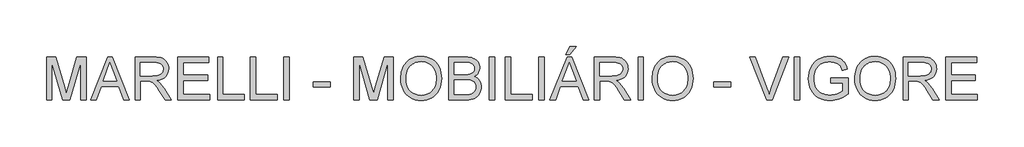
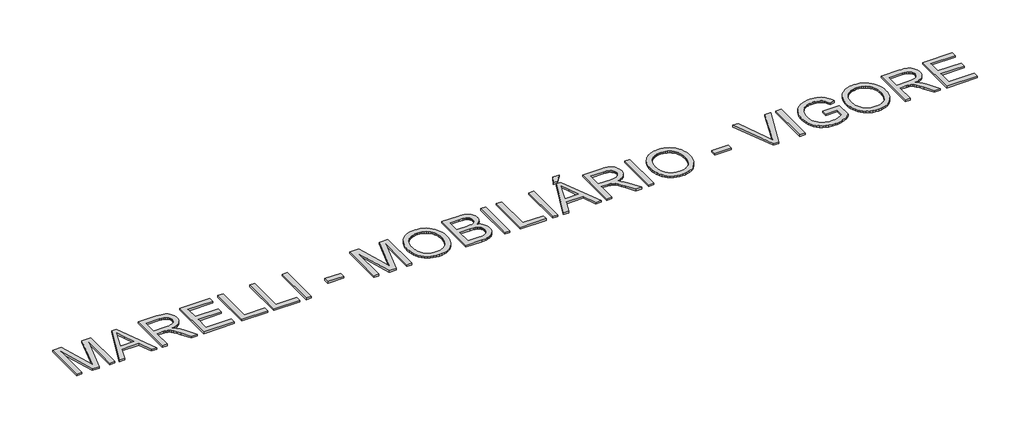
# One storey, part 4 of 4: 1 proxy.
"""IFC4 building model written with IfcOpenShell, lengths in millimetres."""

from ifc_helpers import new_model, si_unit, origin, origin_with_axes, place, context, project, spatial, polyline, outline, extrude, element, save

model = new_model("IFC4")

# Units and contexts
model_context = context("Model", 3, world=origin())
ifc_project = project(units=[si_unit("LENGTHUNIT", "METRE", prefix="MILLI")], contexts=[model_context])

# Site, building, storey
site = spatial("IfcSite", under=ifc_project)
building = spatial("IfcBuilding", under=site)
storey = spatial("IfcBuildingStorey", under=building, Name="Marelli - Linha VIGORE - Planta Baixa", Elevation=0.0)

# Proxy
placement = place(None, origin())
element("IfcBuildingElementProxy", 1, Name="1200mm Arial", ObjectType="1200mm Arial", at=placement, inside=storey, context=model_context, shape_type="SweptSolid", body=[
    extrude(outline(polyline([(-9651.1285855, 28269.4336799), (-9651.1285855, 29474.9094017), (-9391.8453553, 29474.9094017), (-9145.2172657, 28625.2491457), (-9095.47962, 28447.7828712), (-9041.6216959, 28639.9644255), (-8799.1138846, 29474.9094017), (-8539.8306544, 29474.9094017), (-8539.8306544, 28269.4336799), (-8690.5151197, 28269.4336799), (-8690.5151197, 29324.2249365), (-8993.3555781, 28269.4336799), (-9197.6036618, 28269.4336799), (-9500.4441202, 29324.2249365), (-9500.4441202, 28269.4336799), (-9651.1285855, 28269.4336799)])), origin_with_axes(), (0.0, 0.0, 1.0), 50.0),
    extrude(outline(polyline([(-8416.5166097, 28269.4336799), (-7935.32696, 29474.9094017), (-7807.00972, 29474.9094017), (-7325.8200704, 28269.4336799), (-7485.0393979, 28269.4336799), (-7623.0687225, 28646.144843), (-8119.5622631, 28646.144843), (-8257.2972821, 28269.4336799), (-8416.5166097, 28269.4336799)]), holes=[polyline([(-8064.2328111, 28796.8293082), (-7678.1038689, 28796.8293082), (-7786.7026339, 29093.1950435), (-7871.16834, 29324.2249365), (-7946.216267, 29119.093936), (-8064.2328111, 28796.8293082)])]), origin_with_axes(), (0.0, 0.0, 1.0), 50.0),
    extrude(outline(polyline([(-7164.8349093, 28269.4336799), (-7164.8349093, 29474.9094017), (-6645.3855321, 29474.9094017), (-6570.8250487, 29472.8768537), (-6505.7743149, 29466.7792096), (-6450.2333307, 29456.6164695), (-6404.202096, 29442.3886334), (-6365.0042695, 29423.0012522), (-6329.9635094, 29397.3598771), (-6299.0798159, 29365.4645082), (-6272.353189, 29327.3151453), (-6250.786107, 29284.9627306), (-6235.3810485, 29240.4582062), (-6226.1380133, 29193.8015722), (-6223.0570016, 29144.9928285), (-6228.1613643, 29083.0782887), (-6243.4744523, 29026.2405204), (-6268.9962658, 28974.4795237), (-6304.7268045, 28927.7952985), (-6326.5353091, 28906.7294558), (-6351.1259212, 28887.6777669), (-6408.6534682, 28855.616851), (-6477.3094455, 28831.6125509), (-6557.0938532, 28815.6648664), (-6507.4297839, 28783.2176744), (-6471.4509248, 28751.2119408), (-6409.720326, 28678.0034238), (-6349.3141024, 28596.1128916), (-6148.3033802, 28269.4336799), (-6323.4152099, 28269.4336799), (-6480.2800926, 28519.2991311), (-6543.040761, 28614.6541442), (-6593.5877472, 28684.6988761), (-6635.7102356, 28732.9282057), (-6673.1974109, 28762.8370119), (-6708.6980234, 28780.384983), (-6744.8608236, 28791.5318075), (-6780.1039187, 28795.504933), (-6832.2695856, 28796.8293082), (-7014.150444, 28796.8293082), (-7014.150444, 28269.4336799), (-7164.8349093, 28269.4336799)]), holes=[polyline([(-7014.150444, 28947.5137734), (-6676.8762309, 28947.5137734), (-6580.0129015, 28952.8480624), (-6539.720626, 28959.5159235), (-6504.8546099, 28968.8509292), (-6474.633104, 28981.1197937), (-6448.2743591, 28996.5892316), (-6425.7783751, 29015.2592429), (-6407.145152, 29037.1298275), (-6392.5310397, 29061.1249306), (-6382.0923881, 29086.1684974), (-6375.8291972, 29112.2605279), (-6373.7414668, 29139.4010221), (-6377.7237894, 29177.9366611), (-6389.6707572, 29212.9038448), (-6409.5823702, 29244.3025731), (-6437.4586284, 29272.132846), (-6473.9433253, 29294.9231356), (-6519.6802543, 29311.2019139), (-6574.6694156, 29320.9691808), (-6638.910809, 29324.2249365), (-7014.150444, 29324.2249365), (-7014.150444, 28947.5137734)])]), origin_with_axes(), (0.0, 0.0, 1.0), 50.0),
    extrude(outline(polyline([(-5959.3591875, 28269.4336799), (-5959.3591875, 29474.9094017), (-5092.9235124, 29474.9094017), (-5092.9235124, 29324.2249365), (-5808.6747222, 29324.2249365), (-5808.6747222, 28966.3493316), (-5130.5946287, 28966.3493316), (-5130.5946287, 28815.6648664), (-5808.6747222, 28815.6648664), (-5808.6747222, 28420.1181452), (-5074.0879543, 28420.1181452), (-5074.0879543, 28269.4336799), (-5959.3591875, 28269.4336799)])), origin_with_axes(), (0.0, 0.0, 1.0), 50.0),
    extrude(outline(polyline([(-4848.0612564, 28269.4336799), (-4848.0612564, 29474.9094017), (-4697.3767912, 29474.9094017), (-4697.3767912, 28420.1181452), (-4094.6389303, 28420.1181452), (-4094.6389303, 28269.4336799), (-4848.0612564, 28269.4336799)])), origin_with_axes(), (0.0, 0.0, 1.0), 50.0),
    extrude(outline(polyline([(-3925.1189069, 28269.4336799), (-3925.1189069, 29474.9094017), (-3774.4344417, 29474.9094017), (-3774.4344417, 28420.1181452), (-3171.6965808, 28420.1181452), (-3171.6965808, 28269.4336799), (-3925.1189069, 28269.4336799)])), origin_with_axes(), (0.0, 0.0, 1.0), 50.0),
    extrude(outline(polyline([(-2983.3409993, 28269.4336799), (-2983.3409993, 29474.9094017), (-2832.6565341, 29474.9094017), (-2832.6565341, 28269.4336799), (-2983.3409993, 28269.4336799)])), origin_with_axes(), (0.0, 0.0, 1.0), 50.0),
    extrude(outline(polyline([(-2154.5764406, 28627.3092848), (-2154.5764406, 28777.9937501), (-1683.6874867, 28777.9937501), (-1683.6874867, 28627.3092848), (-2154.5764406, 28627.3092848)])), origin_with_axes(), (0.0, 0.0, 1.0), 50.0),
    extrude(outline(polyline([(-1024.4429514, 28269.4336799), (-1024.4429514, 29474.9094017), (-765.1597212, 29474.9094017), (-518.5316316, 28625.2491457), (-468.7939859, 28447.7828712), (-414.9360618, 28639.9644255), (-172.4282505, 29474.9094017), (86.8549797, 29474.9094017), (86.8549797, 28269.4336799), (-63.8294856, 28269.4336799), (-63.8294856, 29324.2249365), (-366.669944, 28269.4336799), (-570.9180277, 28269.4336799), (-873.7584861, 29324.2249365), (-873.7584861, 28269.4336799), (-1024.4429514, 28269.4336799)])), origin_with_axes(), (0.0, 0.0, 1.0), 50.0),
    extrude(outline(polyline([(294.0461193, 28856.2790386), (296.556914, 28929.0047106), (304.0892978, 28997.6744835), (316.6432709, 29062.2883574), (334.2188332, 29122.8463323), (356.8159848, 29179.3484083), (384.4347256, 29231.7945852), (417.0750556, 29280.1848632), (454.7369748, 29324.5192421), (496.3674211, 29364.1815197), (540.9133322, 29398.5554936), (588.3747081, 29427.6411639), (638.7515488, 29451.4385304), (692.0438544, 29469.9475933), (748.2516247, 29483.1683525), (807.3748598, 29491.100808), (869.4135598, 29493.7449599), (950.5131456, 29488.7785529), (1027.5292413, 29473.8793321), (1100.4618469, 29449.0472975), (1169.3109623, 29414.2824489), (1232.145207, 29370.6332502), (1287.0332007, 29319.148165), (1333.9749433, 29259.8271932), (1372.9704348, 29192.670335), (1403.615005, 29119.2043006), (1425.5039837, 29040.9558002), (1438.6373709, 28957.9248339), (1443.0151667, 28870.1114017), (1438.4074447, 28781.1391411), (1424.5842787, 28696.9861347), (1401.5456688, 28617.6523825), (1369.2916148, 28543.1378843), (1328.5854721, 28475.410809), (1280.1905956, 28416.4393252), (1224.1069854, 28366.2234329), (1160.3346416, 28324.763132), (1091.3843586, 28292.31594), (1019.7669312, 28269.1393743), (945.4823594, 28255.2334349), (868.530643, 28250.5981218), (786.0147115, 28255.7208786), (707.9869403, 28271.0891489), (634.4473295, 28296.7029328), (565.395879, 28332.5622303), (502.6352106, 28377.2782868), (447.9679461, 28429.4623478), (401.3940855, 28489.1144134), (362.9136288, 28556.2344834), (332.7840934, 28628.1278223), (311.2629967, 28702.0996945), (298.3503387, 28778.1500999), (294.0461193, 28856.2790386)]), holes=[polyline([(444.7305846, 28854.8075107), (446.6136805, 28803.4557827), (452.2629684, 28754.9091549), (461.6784482, 28709.1676273), (474.86012, 28666.2311999), (491.8079836, 28626.0998728), (512.5220392, 28588.7736458), (537.0022867, 28554.2525191), (565.2487262, 28522.5364926), (596.337054, 28494.1176085), (629.3429668, 28469.4879089), (664.2664645, 28448.6473939), (701.107547, 28431.5960634), (739.8662145, 28418.3339175), (780.5424668, 28408.8609561), (823.1363041, 28403.1771793), (867.6477262, 28401.282587), (912.9730873, 28403.1955734), (956.2429077, 28408.9345325), (997.4571875, 28418.4994644), (1036.6159266, 28431.890369), (1073.7191251, 28449.1072464), (1108.7667829, 28470.1500965), (1141.7589001, 28495.0189194), (1172.6954766, 28523.713715), (1200.7349824, 28555.9263822), (1225.0358875, 28591.3488198), (1245.5981918, 28629.9810278), (1262.4218952, 28671.8230063), (1275.506998, 28716.8747551), (1284.8534999, 28765.1362743), (1290.4614011, 28816.607564), (1292.3307015, 28871.288624), (1289.1301281, 28940.248104), (1279.528408, 29004.6826355), (1263.5255412, 29064.5922184), (1241.1215277, 29119.9768528), (1212.5646879, 29170.1099717), (1178.103342, 29214.2650081), (1137.73749, 29252.4419622), (1091.4671321, 29284.6408338), (1040.7270079, 29310.1994354), (986.9518573, 29328.4555794), (930.1416802, 29339.4092659), (870.2964766, 29343.0604947), (827.498005, 29341.3015589), (786.2170466, 29336.0247515), (746.4536014, 29327.2300726), (708.2076695, 29314.917522), (671.4792508, 29299.0870999), (636.2683454, 29279.7388062), (602.5749531, 29256.872641), (570.3990741, 29230.4886041), (540.9455219, 29199.993486), (515.4191099, 29164.7940768), (493.8198383, 29124.8903767), (476.147707, 29080.2823855), (462.4027159, 29030.9701033), (452.5848652, 28976.9535301), (446.6941547, 28918.2326659), (444.7305846, 28854.8075107)])]), origin_with_axes(), (0.0, 0.0, 1.0), 50.0),
    extrude(outline(polyline([(1650.2063064, 28269.4336799), (1650.2063064, 29474.9094017), (2110.2059531, 29474.9094017), (2176.93055, 29472.6929127), (2236.7205713, 29466.0434456), (2289.5760169, 29454.9610005), (2335.496887, 29439.4455774), (2375.6512068, 29419.3316293), (2411.2070016, 29394.4536094), (2442.1642715, 29364.8115176), (2468.5230164, 29330.405354), (2489.5750636, 29293.1756961), (2504.6122402, 29255.0631214), (2513.6345461, 29216.0676299), (2516.6419814, 29176.1892216), (2514.1127927, 29139.3550369), (2506.5252265, 29103.606104), (2493.879283, 29068.942423), (2476.1749619, 29035.3639939), (2453.3570812, 29003.9192804), (2425.3704584, 28975.6567461), (2392.2150936, 28950.5763911), (2353.8909867, 28928.6782153), (2399.3703984, 28909.2908341), (2439.2763978, 28884.0909175), (2473.608985, 28853.0784653), (2502.36816, 28816.2534776), (2525.0940702, 28774.7379944), (2541.3268633, 28729.6540559), (2551.0665391, 28681.001662), (2554.3130977, 28628.7808128), (2552.0966087, 28585.9869397), (2545.4471416, 28544.7197769), (2534.3646965, 28504.9793244), (2518.8492734, 28466.7655821), (2500.0597005, 28431.4673047), (2479.1548061, 28400.4732466), (2456.1345902, 28373.7834079), (2430.9990529, 28351.3977885), (2403.1595829, 28332.3966834), (2372.0275691, 28315.8603877), (2337.6030114, 28301.7889014), (2299.8859098, 28290.1822245), (2258.2876532, 28281.1047362), (2212.2196304, 28274.6208161), (2106.674286, 28269.4336799), (1650.2063064, 28269.4336799)]), holes=[polyline([(1800.8907716, 28985.1848897), (2076.066504, 28985.1848897), (2172.3044339, 28988.4222513), (2236.7573595, 28998.134336), (2266.8593037, 29007.9108), (2293.0065165, 29020.4647731), (2315.1989979, 29035.7962552), (2333.4367478, 29053.9052464), (2347.664584, 29074.662988), (2357.8273241, 29097.9407213), (2363.9249682, 29123.7384462), (2365.9575162, 29152.0561628), (2364.0629239, 29179.1690658), (2358.3791471, 29204.5897117), (2348.9061857, 29228.3181004), (2335.6440398, 29250.3542319), (2318.8502267, 29269.8795688), (2298.7822639, 29286.0755736), (2275.4401513, 29298.9422464), (2248.8238889, 29308.4795871), (2215.5305684, 29315.3681775), (2172.1572811, 29320.2885992), (2055.1708067, 29324.2249365), (1800.8907716, 29324.2249365), (1800.8907716, 28985.1848897)]), polyline([(1800.8907716, 28420.1181452), (2109.9116475, 28420.1181452), (2177.6019346, 28421.5896731), (2221.7477741, 28426.0042571), (2273.6559236, 28439.0640679), (2316.3670232, 28458.819331), (2351.0950836, 28487.1094565), (2379.0541152, 28525.7738542), (2389.8054665, 28548.5641438), (2397.4850032, 28573.0834788), (2402.0927252, 28599.3318591), (2403.6286325, 28627.3092848), (2401.8260107, 28659.9036296), (2396.4181454, 28690.2906824), (2387.4050365, 28718.4704432), (2374.7866841, 28744.4429121), (2358.1308267, 28767.463128), (2337.0052032, 28786.7861297), (2311.4098133, 28802.4119175), (2281.3446573, 28814.3404912), (2245.4853598, 28823.160462), (2202.5075457, 28829.4604412), (2095.1963677, 28834.5004245), (1800.8907716, 28834.5004245), (1800.8907716, 28420.1181452)])]), origin_with_axes(), (0.0, 0.0, 1.0), 50.0),
    extrude(outline(polyline([(2780.3397955, 28269.4336799), (2780.3397955, 29474.9094017), (2931.0242608, 29474.9094017), (2931.0242608, 28269.4336799), (2780.3397955, 28269.4336799)])), origin_with_axes(), (0.0, 0.0, 1.0), 50.0),
    extrude(outline(polyline([(3232.3931912, 28269.4336799), (3232.3931912, 29474.9094017), (3383.0776564, 29474.9094017), (3383.0776564, 28420.1181452), (3985.8155173, 28420.1181452), (3985.8155173, 28269.4336799), (3232.3931912, 28269.4336799)])), origin_with_axes(), (0.0, 0.0, 1.0), 50.0),
    extrude(outline(polyline([(4174.1710989, 28269.4336799), (4174.1710989, 29474.9094017), (4324.8555641, 29474.9094017), (4324.8555641, 28269.4336799), (4174.1710989, 28269.4336799)])), origin_with_axes(), (0.0, 0.0, 1.0), 50.0),
    extrude(outline(polyline([(4485.8407252, 28269.4336799), (4967.0303749, 29474.9094017), (5095.3476148, 29474.9094017), (5576.5372645, 28269.4336799), (5417.317937, 28269.4336799), (5279.2886124, 28646.144843), (4782.7950717, 28646.144843), (4645.0600527, 28269.4336799), (4485.8407252, 28269.4336799)]), holes=[polyline([(4838.1245238, 28796.8293082), (5224.2534659, 28796.8293082), (5115.6547009, 29093.1950435), (5031.1889948, 29324.2249365), (4956.1410678, 29119.093936), (4838.1245238, 28796.8293082)])]), origin_with_axes(), (0.0, 0.0, 1.0), 50.0),
    extrude(outline(polyline([(4927.593425, 29550.2516343), (5040.6067739, 29776.2783322), (5228.9623554, 29776.2783322), (5040.6067739, 29550.2516343), (4927.593425, 29550.2516343)])), origin_with_axes(), (0.0, 0.0, 1.0), 50.0),
    extrude(outline(polyline([(5737.5224256, 28269.4336799), (5737.5224256, 29474.9094017), (6256.9718028, 29474.9094017), (6331.5322861, 29472.8768537), (6396.5830199, 29466.7792096), (6452.1240042, 29456.6164695), (6498.1552388, 29442.3886334), (6537.3530654, 29423.0012522), (6572.3938254, 29397.3598771), (6603.2775189, 29365.4645082), (6630.0041459, 29327.3151453), (6651.5712278, 29284.9627306), (6666.9762864, 29240.4582062), (6676.2193215, 29193.8015722), (6679.3003332, 29144.9928285), (6674.1959705, 29083.0782887), (6658.8828825, 29026.2405204), (6633.3610691, 28974.4795237), (6597.6305303, 28927.7952985), (6575.8220258, 28906.7294558), (6551.2314137, 28887.6777669), (6493.7038667, 28855.616851), (6425.0478893, 28831.6125509), (6345.2634816, 28815.6648664), (6394.927551, 28783.2176744), (6430.9064101, 28751.2119408), (6492.6370089, 28678.0034238), (6553.0432325, 28596.1128916), (6754.0539546, 28269.4336799), (6578.9421249, 28269.4336799), (6422.0772422, 28519.2991311), (6359.3165738, 28614.6541442), (6308.7695877, 28684.6988761), (6266.6470992, 28732.9282057), (6229.1599239, 28762.8370119), (6193.6593114, 28780.384983), (6157.4965113, 28791.5318075), (6122.2534161, 28795.504933), (6070.0877492, 28796.8293082), (5888.2068908, 28796.8293082), (5888.2068908, 28269.4336799), (5737.5224256, 28269.4336799)]), holes=[polyline([(5888.2068908, 28947.5137734), (6225.481104, 28947.5137734), (6322.3444333, 28952.8480624), (6362.6367088, 28959.5159235), (6397.5027249, 28968.8509292), (6427.7242308, 28981.1197937), (6454.0829758, 28996.5892316), (6476.5789598, 29015.2592429), (6495.2121828, 29037.1298275), (6509.8262951, 29061.1249306), (6520.2649467, 29086.1684974), (6526.5281377, 29112.2605279), (6528.615868, 29139.4010221), (6524.6335454, 29177.9366611), (6512.6865776, 29212.9038448), (6492.7749646, 29244.3025731), (6464.8987064, 29272.132846), (6428.4140096, 29294.9231356), (6382.6770805, 29311.2019139), (6327.6879193, 29320.9691808), (6263.4465259, 29324.2249365), (5888.2068908, 29324.2249365), (5888.2068908, 28947.5137734)])]), origin_with_axes(), (0.0, 0.0, 1.0), 50.0),
    extrude(outline(polyline([(6961.8337055, 28269.4336799), (6961.8337055, 29474.9094017), (7112.5181707, 29474.9094017), (7112.5181707, 28269.4336799), (6961.8337055, 28269.4336799)])), origin_with_axes(), (0.0, 0.0, 1.0), 50.0),
    extrude(outline(polyline([(7357.3804267, 28856.2790386), (7359.8912214, 28929.0047106), (7367.4236052, 28997.6744835), (7379.9775783, 29062.2883574), (7397.5531406, 29122.8463323), (7420.1502922, 29179.3484083), (7447.769033, 29231.7945852), (7480.409363, 29280.1848632), (7518.0712822, 29324.5192421), (7559.7017285, 29364.1815197), (7604.2476396, 29398.5554936), (7651.7090155, 29427.6411639), (7702.0858562, 29451.4385304), (7755.3781617, 29469.9475933), (7811.5859321, 29483.1683525), (7870.7091672, 29491.100808), (7932.7478672, 29493.7449599), (8013.847453, 29488.7785529), (8090.8635487, 29473.8793321), (8163.7961543, 29449.0472975), (8232.6452697, 29414.2824489), (8295.4795144, 29370.6332502), (8350.3675081, 29319.148165), (8397.3092507, 29259.8271932), (8436.3047422, 29192.670335), (8466.9493124, 29119.2043006), (8488.8382911, 29040.9558002), (8501.9716783, 28957.9248339), (8506.3494741, 28870.1114017), (8501.7417521, 28781.1391411), (8487.9185861, 28696.9861347), (8464.8799762, 28617.6523825), (8432.6259222, 28543.1378843), (8391.9197795, 28475.410809), (8343.524903, 28416.4393252), (8287.4412928, 28366.2234329), (8223.668949, 28324.763132), (8154.718666, 28292.31594), (8083.1012386, 28269.1393743), (8008.8166667, 28255.2334349), (7931.8649504, 28250.5981218), (7849.3490189, 28255.7208786), (7771.3212477, 28271.0891489), (7697.7816369, 28296.7029328), (7628.7301864, 28332.5622303), (7565.969518, 28377.2782868), (7511.3022535, 28429.4623478), (7464.7283929, 28489.1144134), (7426.2479362, 28556.2344834), (7396.1184008, 28628.1278223), (7374.5973041, 28702.0996945), (7361.6846461, 28778.1500999), (7357.3804267, 28856.2790386)]), holes=[polyline([(7508.064892, 28854.8075107), (7509.9479879, 28803.4557827), (7515.5972758, 28754.9091549), (7525.0127556, 28709.1676273), (7538.1944274, 28666.2311999), (7555.142291, 28626.0998728), (7575.8563466, 28588.7736458), (7600.3365941, 28554.2525191), (7628.5830336, 28522.5364926), (7659.6713614, 28494.1176085), (7692.6772742, 28469.4879089), (7727.6007718, 28448.6473939), (7764.4418544, 28431.5960634), (7803.2005219, 28418.3339175), (7843.8767742, 28408.8609561), (7886.4706115, 28403.1771793), (7930.9820336, 28401.282587), (7976.3073947, 28403.1955734), (8019.5772151, 28408.9345325), (8060.7914949, 28418.4994644), (8099.950234, 28431.890369), (8137.0534325, 28449.1072464), (8172.1010903, 28470.1500965), (8205.0932075, 28495.0189194), (8236.029784, 28523.713715), (8264.0692898, 28555.9263822), (8288.3701949, 28591.3488198), (8308.9324991, 28629.9810278), (8325.7562026, 28671.8230063), (8338.8413054, 28716.8747551), (8348.1878073, 28765.1362743), (8353.7957085, 28816.607564), (8355.6650088, 28871.288624), (8352.4644355, 28940.248104), (8342.8627154, 29004.6826355), (8326.8598486, 29064.5922184), (8304.4558351, 29119.9768528), (8275.8989952, 29170.1099717), (8241.4376493, 29214.2650081), (8201.0717974, 29252.4419622), (8154.8014395, 29284.6408338), (8104.0613153, 29310.1994354), (8050.2861647, 29328.4555794), (7993.4759875, 29339.4092659), (7933.630784, 29343.0604947), (7890.8323124, 29341.3015589), (7849.551354, 29336.0247515), (7809.7879088, 29327.2300726), (7771.5419769, 29314.917522), (7734.8135582, 29299.0870999), (7699.6026528, 29279.7388062), (7665.9092605, 29256.872641), (7633.7333815, 29230.4886041), (7604.2798293, 29199.993486), (7578.7534173, 29164.7940768), (7557.1541457, 29124.8903767), (7539.4820144, 29080.2823855), (7525.7370233, 29030.9701033), (7515.9191726, 28976.9535301), (7510.0284621, 28918.2326659), (7508.064892, 28854.8075107)])]), origin_with_axes(), (0.0, 0.0, 1.0), 50.0),
    extrude(outline(polyline([(9090.2517768, 28627.3092848), (9090.2517768, 28777.9937501), (9561.1407306, 28777.9937501), (9561.1407306, 28627.3092848), (9090.2517768, 28627.3092848)])), origin_with_axes(), (0.0, 0.0, 1.0), 50.0),
    extrude(outline(polyline([(10576.4950373, 28269.4336799), (10096.7769156, 29474.9094017), (10258.0563823, 29474.9094017), (10579.1437877, 28606.4135875), (10614.8283412, 28505.2460388), (10644.1853244, 28410.7003661), (10674.0573425, 28508.6305532), (10708.3439444, 28606.4135875), (11030.3142666, 29474.9094017), (11191.5937333, 29474.9094017), (10732.1826977, 28269.4336799), (10576.4950373, 28269.4336799)])), origin_with_axes(), (0.0, 0.0, 1.0), 50.0),
    extrude(outline(polyline([(11350.5187552, 28269.4336799), (11350.5187552, 29474.9094017), (11501.2032204, 29474.9094017), (11501.2032204, 28269.4336799), (11350.5187552, 28269.4336799)])), origin_with_axes(), (0.0, 0.0, 1.0), 50.0),
    extrude(outline(polyline([(12367.6388954, 28740.3226338), (12367.6388954, 28891.007099), (12857.3634074, 28891.007099), (12857.3634074, 28440.4252313), (12798.3275443, 28396.113845), (12738.353582, 28357.6517824), (12677.4415206, 28325.0390435), (12615.5913602, 28298.2756284), (12552.8766771, 28277.4167192), (12489.3710477, 28262.5174984), (12425.0744719, 28253.5779659), (12359.9869499, 28250.5981218), (12273.4335135, 28255.3346025), (12190.9451732, 28269.5440445), (12112.5219288, 28293.226448), (12038.1637806, 28326.3818128), (11970.2711584, 28368.5134983), (11911.2444922, 28419.1248638), (11861.0837822, 28478.2159092), (11819.7890282, 28545.7866347), (11787.5349743, 28619.6757334), (11764.4963644, 28697.7218987), (11750.6731984, 28779.9251305), (11746.0654764, 28866.2854289), (11750.6548043, 28952.6549243), (11764.422788, 29036.0629697), (11787.3694274, 29116.509565), (11819.4947226, 29193.9947102), (11860.2284566, 29265.1154969), (11909.0004121, 29326.4690167), (11965.8105892, 29378.0552694), (12030.6589879, 29419.8742552), (12102.1384595, 29452.1926885), (12178.8418555, 29475.2772837), (12260.7691759, 29489.1280408), (12347.9204205, 29493.7449599), (12411.5456116, 29491.0686184), (12472.0438057, 29483.0395938), (12529.4150028, 29469.6578862), (12583.659203, 29450.9234956), (12633.4980163, 29427.4158362), (12677.6530528, 29399.7143219), (12716.1243124, 29367.8189529), (12748.9117953, 29331.7297292), (12777.0639649, 29290.6281133), (12801.6292852, 29243.6955678), (12822.6077559, 29190.9320926), (12839.9993773, 29132.3376878), (12701.0871359, 29093.1950435), (12686.4178413, 29135.3451231), (12670.0746837, 29172.6207663), (12652.057663, 29205.021973), (12632.3667792, 29232.5487433), (12609.6316719, 29256.3874966), (12582.4819806, 29277.7246523), (12550.9177054, 29296.5602105), (12514.9388463, 29312.8941711), (12475.7134286, 29326.0919376), (12434.4094776, 29335.5189138), (12391.0269933, 29341.1750994), (12345.5659757, 29343.0604947), (12291.6804605, 29341.0279466), (12241.5657357, 29334.9303026), (12195.2218014, 29324.7675624), (12152.6486575, 29310.5397263), (12113.9290775, 29293.0101492), (12079.1458348, 29272.9421864), (12048.2989295, 29250.3358378), (12021.3883616, 29225.1911034), (11977.0585812, 29169.7512867), (11943.838837, 29109.0875457), (11923.2374453, 29053.3534235), (11908.5221655, 28995.3384328), (11899.6929976, 28935.0425738), (11896.7499416, 28872.4658464), (11900.2908058, 28797.2247814), (11910.9133984, 28728.3664689), (11928.6177195, 28665.8909091), (11953.4037689, 28609.7981019), (11984.94965, 28560.2995794), (12022.933466, 28517.6068739), (12067.3552169, 28481.7199852), (12118.2149027, 28452.6389135), (12173.1304875, 28430.1705207), (12229.7199355, 28414.1216686), (12287.9832464, 28404.4923574), (12347.9204205, 28401.282587), (12400.4263783, 28403.7014111), (12452.2885425, 28410.9578835), (12503.5069133, 28423.0520041), (12554.0814906, 28439.9837729), (12642.483534, 28479.9725458), (12677.6070675, 28500.9326224), (12706.6789422, 28522.5364926), (12706.6789422, 28740.3226338), (12367.6388954, 28740.3226338)])), origin_with_axes(), (0.0, 0.0, 1.0), 50.0),
    extrude(outline(polyline([(13045.718989, 28856.2790386), (13048.2297836, 28929.0047106), (13055.7621674, 28997.6744835), (13068.3161405, 29062.2883574), (13085.8917028, 29122.8463323), (13108.4888544, 29179.3484083), (13136.1075952, 29231.7945852), (13168.7479252, 29280.1848632), (13206.4098445, 29324.5192421), (13248.0402907, 29364.1815197), (13292.5862018, 29398.5554936), (13340.0475777, 29427.6411639), (13390.4244184, 29451.4385304), (13443.716724, 29469.9475933), (13499.9244943, 29483.1683525), (13559.0477295, 29491.100808), (13621.0864294, 29493.7449599), (13702.1860153, 29488.7785529), (13779.2021109, 29473.8793321), (13852.1347165, 29449.0472975), (13920.9838319, 29414.2824489), (13983.8180767, 29370.6332502), (14038.7060703, 29319.148165), (14085.6478129, 29259.8271932), (14124.6433044, 29192.670335), (14155.2878746, 29119.2043006), (14177.1768533, 29040.9558002), (14190.3102406, 28957.9248339), (14194.6880363, 28870.1114017), (14190.0803143, 28781.1391411), (14176.2571483, 28696.9861347), (14153.2185384, 28617.6523825), (14120.9644845, 28543.1378843), (14080.2583417, 28475.410809), (14031.8634652, 28416.4393252), (13975.7798551, 28366.2234329), (13912.0075112, 28324.763132), (13843.0572283, 28292.31594), (13771.4398008, 28269.1393743), (13697.155229, 28255.2334349), (13620.2035126, 28250.5981218), (13537.6875811, 28255.7208786), (13459.6598099, 28271.0891489), (13386.1201991, 28296.7029328), (13317.0687486, 28332.5622303), (13254.3080802, 28377.2782868), (13199.6408157, 28429.4623478), (13153.0669552, 28489.1144134), (13114.5864985, 28556.2344834), (13084.4569631, 28628.1278223), (13062.9358663, 28702.0996945), (13050.0232083, 28778.1500999), (13045.718989, 28856.2790386)]), holes=[polyline([(13196.4034542, 28854.8075107), (13198.2865501, 28803.4557827), (13203.935838, 28754.9091549), (13213.3513178, 28709.1676273), (13226.5329896, 28666.2311999), (13243.4808533, 28626.0998728), (13264.1949088, 28588.7736458), (13288.6751564, 28554.2525191), (13316.9215958, 28522.5364926), (13348.0099237, 28494.1176085), (13381.0158364, 28469.4879089), (13415.9393341, 28448.6473939), (13452.7804166, 28431.5960634), (13491.5390841, 28418.3339175), (13532.2153364, 28408.8609561), (13574.8091737, 28403.1771793), (13619.3205958, 28401.282587), (13664.6459569, 28403.1955734), (13707.9157773, 28408.9345325), (13749.1300571, 28418.4994644), (13788.2887962, 28431.890369), (13825.3919947, 28449.1072464), (13860.4396525, 28470.1500965), (13893.4317697, 28495.0189194), (13924.3683462, 28523.713715), (13952.4078521, 28555.9263822), (13976.7087571, 28591.3488198), (13997.2710614, 28629.9810278), (14014.0947649, 28671.8230063), (14027.1798676, 28716.8747551), (14036.5263695, 28765.1362743), (14042.1342707, 28816.607564), (14044.0035711, 28871.288624), (14040.8029977, 28940.248104), (14031.2012776, 29004.6826355), (14015.1984108, 29064.5922184), (13992.7943973, 29119.9768528), (13964.2375575, 29170.1099717), (13929.7762116, 29214.2650081), (13889.4103596, 29252.4419622), (13843.1400017, 29284.6408338), (13792.3998775, 29310.1994354), (13738.6247269, 29328.4555794), (13681.8145498, 29339.4092659), (13621.9693462, 29343.0604947), (13579.1708746, 29341.3015589), (13537.8899162, 29336.0247515), (13498.1264711, 29327.2300726), (13459.8805391, 29314.917522), (13423.1521204, 29299.0870999), (13387.941215, 29279.7388062), (13354.2478227, 29256.872641), (13322.0719437, 29230.4886041), (13292.6183915, 29199.993486), (13267.0919796, 29164.7940768), (13245.4927079, 29124.8903767), (13227.8205766, 29080.2823855), (13214.0755855, 29030.9701033), (13204.2577348, 28976.9535301), (13198.3670243, 28918.2326659), (13196.4034542, 28854.8075107)])]), origin_with_axes(), (0.0, 0.0, 1.0), 50.0),
    extrude(outline(polyline([(14401.879176, 28269.4336799), (14401.879176, 29474.9094017), (14921.3285532, 29474.9094017), (14995.8890365, 29472.8768537), (15060.9397703, 29466.7792096), (15116.4807546, 29456.6164695), (15162.5119892, 29442.3886334), (15201.7098158, 29423.0012522), (15236.7505758, 29397.3598771), (15267.6342693, 29365.4645082), (15294.3608963, 29327.3151453), (15315.9279782, 29284.9627306), (15331.3330368, 29240.4582062), (15340.5760719, 29193.8015722), (15343.6570836, 29144.9928285), (15338.5527209, 29083.0782887), (15323.2396329, 29026.2405204), (15297.7178195, 28974.4795237), (15261.9872807, 28927.7952985), (15240.1787762, 28906.7294558), (15215.5881641, 28887.6777669), (15158.0606171, 28855.616851), (15089.4046397, 28831.6125509), (15009.620232, 28815.6648664), (15059.2843014, 28783.2176744), (15095.2631605, 28751.2119408), (15156.9937593, 28678.0034238), (15217.3999829, 28596.1128916), (15418.4107051, 28269.4336799), (15243.2988753, 28269.4336799), (15086.4339926, 28519.2991311), (15023.6733242, 28614.6541442), (14973.1263381, 28684.6988761), (14931.0038496, 28732.9282057), (14893.5166743, 28762.8370119), (14858.0160618, 28780.384983), (14821.8532617, 28791.5318075), (14786.6101665, 28795.504933), (14734.4444996, 28796.8293082), (14552.5636412, 28796.8293082), (14552.5636412, 28269.4336799), (14401.879176, 28269.4336799)]), holes=[polyline([(14552.5636412, 28947.5137734), (14889.8378544, 28947.5137734), (14986.7011837, 28952.8480624), (15026.9934592, 28959.5159235), (15061.8594753, 28968.8509292), (15092.0809812, 28981.1197937), (15118.4397262, 28996.5892316), (15140.9357102, 29015.2592429), (15159.5689332, 29037.1298275), (15174.1830455, 29061.1249306), (15184.6216971, 29086.1684974), (15190.8848881, 29112.2605279), (15192.9726184, 29139.4010221), (15188.9902958, 29177.9366611), (15177.043328, 29212.9038448), (15157.131715, 29244.3025731), (15129.2554568, 29272.132846), (15092.77076, 29294.9231356), (15047.0338309, 29311.2019139), (14992.0446697, 29320.9691808), (14927.8032763, 29324.2249365), (14552.5636412, 29324.2249365), (14552.5636412, 28947.5137734)])]), origin_with_axes(), (0.0, 0.0, 1.0), 50.0),
    extrude(outline(polyline([(15607.3548978, 28269.4336799), (15607.3548978, 29474.9094017), (16473.7905728, 29474.9094017), (16473.7905728, 29324.2249365), (15758.039363, 29324.2249365), (15758.039363, 28966.3493316), (16436.1194565, 28966.3493316), (16436.1194565, 28815.6648664), (15758.039363, 28815.6648664), (15758.039363, 28420.1181452), (16492.626131, 28420.1181452), (16492.626131, 28269.4336799), (15607.3548978, 28269.4336799)])), origin_with_axes(), (0.0, 0.0, 1.0), 50.0),
])

save(model, "model.ifc")
